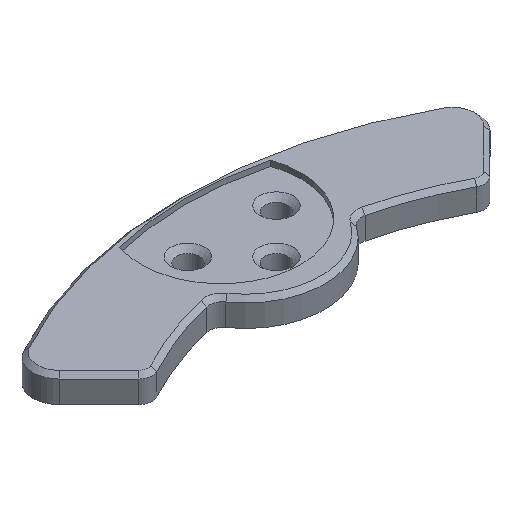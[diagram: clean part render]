
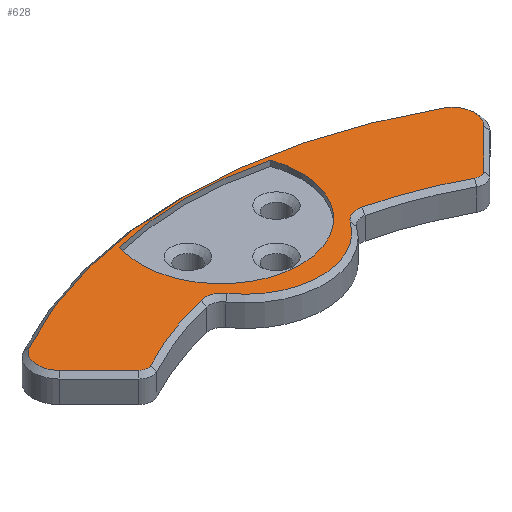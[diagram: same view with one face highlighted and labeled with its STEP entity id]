
A CAD part, isometric view. The second image highlights one B-rep face of the part: STEP entity #628.
In plain terms, the highlighted planar face has unit normal (0, 0, 1).
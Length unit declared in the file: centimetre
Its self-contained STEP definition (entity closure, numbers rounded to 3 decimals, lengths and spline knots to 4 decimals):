
#241=VERTEX_POINT('',#5045);
#242=VERTEX_POINT('',#5047);
#245=VERTEX_POINT('',#5054);
#246=VERTEX_POINT('',#5059);
#249=VERTEX_POINT('',#5066);
#250=VERTEX_POINT('',#5071);
#253=VERTEX_POINT('',#5078);
#254=VERTEX_POINT('',#5083);
#257=VERTEX_POINT('',#5090);
#258=VERTEX_POINT('',#5095);
#261=VERTEX_POINT('',#5102);
#262=VERTEX_POINT('',#5107);
#271=VERTEX_POINT('',#5142);
#272=VERTEX_POINT('',#5143);
#290=EDGE_CURVE('',#241,#242,#1338,.T.);
#294=EDGE_CURVE('',#245,#241,#1340,.T.);
#298=EDGE_CURVE('',#242,#246,#1592,.T.);
#300=EDGE_CURVE('',#249,#245,#1342,.T.);
#304=EDGE_CURVE('',#246,#250,#1345,.T.);
#306=EDGE_CURVE('',#253,#249,#1596,.T.);
#310=EDGE_CURVE('',#250,#254,#1347,.T.);
#312=EDGE_CURVE('',#257,#253,#1348,.T.);
#316=EDGE_CURVE('',#254,#258,#1351,.T.);
#318=EDGE_CURVE('',#261,#257,#1352,.T.);
#322=EDGE_CURVE('',#258,#262,#1355,.T.);
#324=EDGE_CURVE('',#262,#261,#1357,.T.);
#338=EDGE_CURVE('',#271,#272,#1363,.T.);
#339=EDGE_CURVE('',#272,#271,#1364,.T.);
#436=ORIENTED_EDGE('',*,*,#338,.T.);
#437=ORIENTED_EDGE('',*,*,#339,.T.);
#438=ORIENTED_EDGE('',*,*,#290,.F.);
#439=ORIENTED_EDGE('',*,*,#294,.F.);
#440=ORIENTED_EDGE('',*,*,#300,.F.);
#441=ORIENTED_EDGE('',*,*,#306,.F.);
#442=ORIENTED_EDGE('',*,*,#312,.F.);
#443=ORIENTED_EDGE('',*,*,#318,.F.);
#444=ORIENTED_EDGE('',*,*,#324,.F.);
#445=ORIENTED_EDGE('',*,*,#322,.F.);
#446=ORIENTED_EDGE('',*,*,#316,.F.);
#447=ORIENTED_EDGE('',*,*,#310,.F.);
#448=ORIENTED_EDGE('',*,*,#304,.F.);
#449=ORIENTED_EDGE('',*,*,#298,.F.);
#532=EDGE_LOOP('',(#436,#437));
#533=EDGE_LOOP('',(#438,#439,#440,#441,#442,#443,#444,#445,#446,#447,#448,
#449));
#580=FACE_BOUND('',#532,.T.);
#581=FACE_BOUND('',#533,.T.);
#628=ADVANCED_FACE('',(#580,#581),#901,.T.);
#815=AXIS2_PLACEMENT_3D('',#5046,#2392,#2393);
#818=AXIS2_PLACEMENT_3D('',#5055,#2400,#2401);
#822=AXIS2_PLACEMENT_3D('',#5067,#2411,#2412);
#826=AXIS2_PLACEMENT_3D('',#5074,#2420,#2421);
#830=AXIS2_PLACEMENT_3D('',#5086,#2431,#2432);
#832=AXIS2_PLACEMENT_3D('',#5091,#2436,#2437);
#836=AXIS2_PLACEMENT_3D('',#5098,#2445,#2446);
#838=AXIS2_PLACEMENT_3D('',#5103,#2450,#2451);
#842=AXIS2_PLACEMENT_3D('',#5110,#2459,#2460);
#845=AXIS2_PLACEMENT_3D('',#5113,#2465,#2466);
#857=AXIS2_PLACEMENT_3D('',#5140,#2496,$);
#858=AXIS2_PLACEMENT_3D('',#5141,#2497,#2498);
#859=AXIS2_PLACEMENT_3D('',#5144,#2499,#2500);
#901=PLANE('',#857);
#1338=CIRCLE('',#815,0.5);
#1340=CIRCLE('',#818,9.7);
#1342=CIRCLE('',#822,0.5);
#1345=CIRCLE('',#826,0.2);
#1347=CIRCLE('',#830,7.7);
#1348=CIRCLE('',#832,0.2);
#1351=CIRCLE('',#836,0.4);
#1352=CIRCLE('',#838,7.7);
#1355=CIRCLE('',#842,1.7);
#1357=CIRCLE('',#845,0.4);
#1363=CIRCLE('',#858,6.8);
#1364=CIRCLE('',#859,1.8);
#1592=LINE('',#5062,#2711);
#1596=LINE('',#5079,#2715);
#2392=DIRECTION('',(0.,0.,-1.));
#2393=DIRECTION('',(0.495,0.07,0.));
#2400=DIRECTION('',(0.,0.,-1.));
#2401=DIRECTION('',(0.,9.7,0.));
#2407=DIRECTION('',(-0.708,-0.706,0.));
#2411=DIRECTION('',(0.,0.,-1.));
#2412=DIRECTION('',(-0.495,0.07,0.));
#2420=DIRECTION('',(0.,0.,-1.));
#2421=DIRECTION('',(0.029,-0.198,0.));
#2424=DIRECTION('',(-0.708,0.706,0.));
#2431=DIRECTION('',(0.,0.,1.));
#2432=DIRECTION('',(2.756,7.19,0.));
#2436=DIRECTION('',(0.,0.,-1.));
#2437=DIRECTION('',(-0.029,-0.198,0.));
#2445=DIRECTION('',(0.,0.,1.));
#2446=DIRECTION('',(-0.141,0.374,0.));
#2450=DIRECTION('',(0.,0.,1.));
#2451=DIRECTION('',(-2.756,7.19,0.));
#2459=DIRECTION('',(0.,0.,-1.));
#2460=DIRECTION('',(0.,-1.7,0.));
#2465=DIRECTION('',(0.,0.,1.));
#2466=DIRECTION('',(0.141,0.374,0.));
#2496=DIRECTION('',(0.,0.,1.));
#2497=DIRECTION('',(0.,0.,-1.));
#2498=DIRECTION('',(6.8,0.,0.));
#2499=DIRECTION('',(0.,0.,-1.));
#2500=DIRECTION('',(1.8,0.,0.));
#2711=VECTOR('',#2407,1.);
#2715=VECTOR('',#2424,1.);
#5045=CARTESIAN_POINT('',(4.6744,8.4994,0.6));
#5046=CARTESIAN_POINT('',(4.4335,8.0613,0.6));
#5047=CARTESIAN_POINT('',(4.7866,7.7073,0.6));
#5054=CARTESIAN_POINT('',(-4.6744,8.4994,0.6));
#5055=CARTESIAN_POINT('',(0.,0.,0.6));
#5059=CARTESIAN_POINT('',(3.8897,6.8125,0.6));
#5062=CARTESIAN_POINT('',(3.4572,6.381,0.6));
#5066=CARTESIAN_POINT('',(-4.7866,7.7073,0.6));
#5067=CARTESIAN_POINT('',(-4.4335,8.0613,0.6));
#5071=CARTESIAN_POINT('',(3.6535,6.778,0.6));
#5074=CARTESIAN_POINT('',(3.7484,6.9541,0.6));
#5078=CARTESIAN_POINT('',(-3.8897,6.8125,0.6));
#5079=CARTESIAN_POINT('',(-3.4572,6.381,0.6));
#5083=CARTESIAN_POINT('',(1.8138,7.4833,0.6));
#5086=CARTESIAN_POINT('',(0.,0.,0.6));
#5090=CARTESIAN_POINT('',(-3.6535,6.778,0.6));
#5091=CARTESIAN_POINT('',(-3.7484,6.9541,0.6));
#5095=CARTESIAN_POINT('',(1.392,7.3242,0.6));
#5098=CARTESIAN_POINT('',(1.7196,7.0946,0.6));
#5102=CARTESIAN_POINT('',(-1.8138,7.4833,0.6));
#5103=CARTESIAN_POINT('',(0.,0.,0.6));
#5107=CARTESIAN_POINT('',(-1.392,7.3242,0.6));
#5110=CARTESIAN_POINT('',(0.,8.3,0.6));
#5113=CARTESIAN_POINT('',(-1.7196,7.0946,0.6));
#5140=CARTESIAN_POINT('',(0.,8.0844,0.6));
#5141=CARTESIAN_POINT('',(0.,2.85,0.6));
#5142=CARTESIAN_POINT('',(-1.7029,9.4333,0.6));
#5143=CARTESIAN_POINT('',(1.7029,9.4333,0.6));
#5144=CARTESIAN_POINT('',(0.,8.85,0.6));
